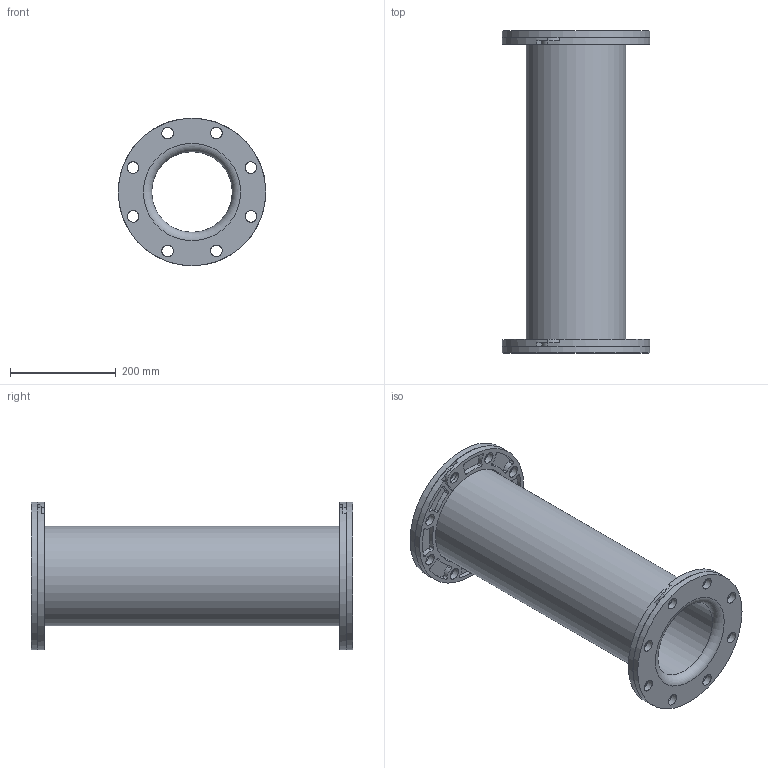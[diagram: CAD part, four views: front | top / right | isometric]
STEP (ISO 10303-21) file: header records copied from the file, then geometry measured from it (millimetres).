
FILE_DESCRIPTION(/* description */ (''),/* implementation_level */ '2;1');
FILE_NAME(/* name */ 'C:\001_Work\Designs\Mercer2014\MQInventor2014\RajR\150 Style\STP\STYLE 150 ASA150LB\150-6IDx24FF ASA150LB.stp',/* time_stamp */ '2016-05-20T18:47:14-04:00',/* author */ ('rramoutar'),/* organization */ ('Mason Industries Inc.'),/* preprocessor_version */ 'ST-DEVELOPER v15.6',/* originating_system */ 'Autodesk Inventor 2015',/* authorisation */ '');
FILE_SCHEMA (('CONFIG_CONTROL_DESIGN'));
Length unit declared in the file: inch
Products named in the file (1): 150-6IDx24FF
Bounding box: 279.4 x 609.6 x 279.4 mm (x, y, z)
Volume: 7121333.6 mm3; surface area: 1007007.5 mm2
Topology: 3 solids, 3 shells, 251 faces, 676 edges, 449 vertices
Faces by surface type: cylinder 183, plane 64, torus 4
Full cylindrical faces by diameter (mm): 22.225 x36, 152.4 x1, 188.57 x1, 279.4 x3
Entity records: 8240 total; most frequent: DIRECTION 1525, CARTESIAN_POINT 1321, ORIENTED_EDGE 1252, AXIS2_PLACEMENT_3D 647, EDGE_CURVE 626, VERTEX_POINT 443, CIRCLE 395, EDGE_LOOP 383
